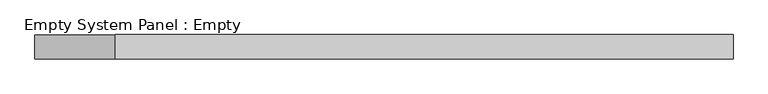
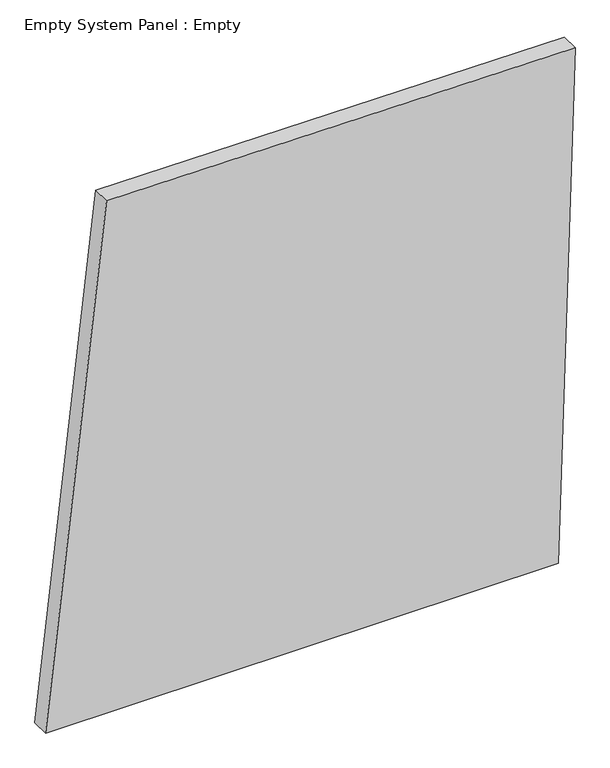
"""IFC4 building model written with IfcOpenShell, lengths in millimetres: plate geometry, Empty System Panel : Empty."""

from ifc_helpers import new_model, si_unit, frame, origin, place, context, project, spatial, polyline, outline, extrude, source, transform, mapped, element, save


def empty_system_panel_empty_37cef994(model_context):
    return source(origin(), model_context, "Body", "SweptSolid", [
        extrude(outline(polyline([(0.0, -1464.3517387), (0.0, 1370.6487428), (2978.0580971, 1464.3517387), (2991.6707552, -1127.0073549), (0.0, -1464.3517387)])), frame((0.0, -50.8, 0.0), z_axis=(0.0, 1.0, 0.0), x_axis=(0.0, 0.0, 1.0)), (0.0, 0.0, 1.0), 101.6),
    ])


if __name__ == "__main__":
    model = new_model("IFC4")
    model_context = context("Model", 3, world=origin())
    ifc_project = project(units=[si_unit("LENGTHUNIT", "METRE", prefix="MILLI")], contexts=[model_context])
    site = spatial("IfcSite", under=ifc_project)
    building = spatial("IfcBuilding", under=site)
    placement = place(None, origin())
    empty_system_panel_empty_shape = empty_system_panel_empty_37cef994(model_context)
    element("IfcPlate", 1, ObjectType="Empty System Panel : Empty", at=placement, inside=building, context=model_context, shape_type="MappedRepresentation", body=[
        mapped(empty_system_panel_empty_shape, transform((0.0, 0.0, 0.0), x_axis=(1.0, 0.0, 0.0), y_axis=(0.0, 1.0, 0.0), z_axis=(0.0, 0.0, 1.0))),
    ])
    save(model, "model.ifc")
